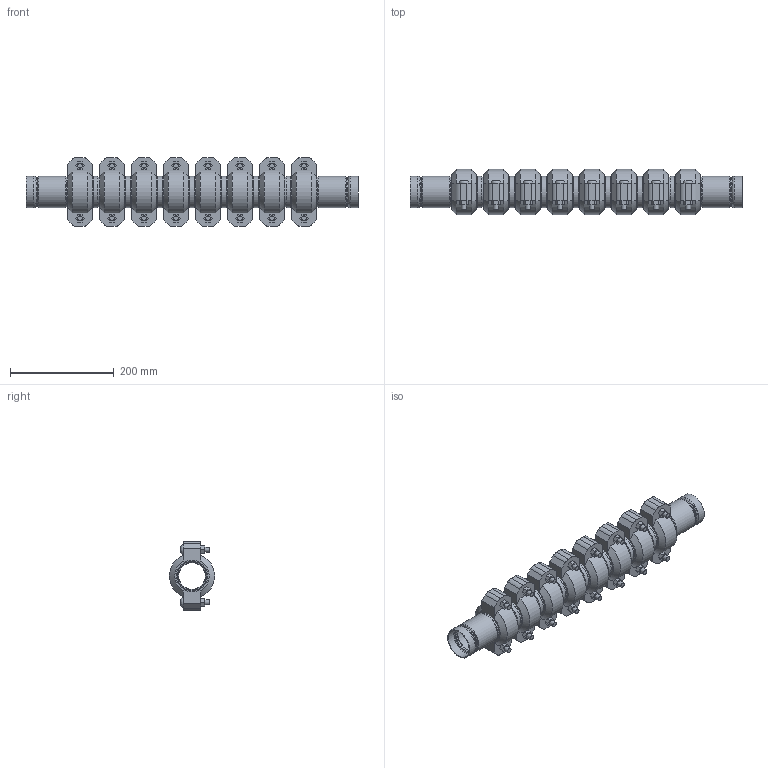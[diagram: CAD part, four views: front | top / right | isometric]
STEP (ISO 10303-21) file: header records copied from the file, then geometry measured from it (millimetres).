
FILE_DESCRIPTION(/* description */ ('VIC STRENGTHIN 100 EXPANSION JOINT 8 COUPLINGS EXPANDED STYLE E155 (ST1)','CAx-IF Rec.Pracs.---Representation and Presentation of Product Manufacturing Information (PMI)---4.0---2014-10-13'),/* implementation_level */ '2;1');
FILE_NAME(/* name */ 'C:\Users\Vjadhav\AppData\Roaming\Autodesk\ApplicationPlugins\Victaulic.Temp\A374\Victaulic_SS-StrengThin 100_Expansion Joint_Expanded_8 Couplings_Style E155 (ST1)_2 (50).stp',/* time_stamp */ '2021-07-23T19:34:19+05:00',/* author */ ('kkamble'),/* organization */ ('Victaulic'),/* preprocessor_version */ 'ST-DEVELOPER v17.2',/* originating_system */ 'Autodesk Inventor 2019',/* authorisation */ '');
FILE_SCHEMA (('AP242_MANAGED_MODEL_BASED_3D_ENGINEERING_MIM_LF { 1 0 10303 442 1 1 4 }'));
Length unit declared in the file: inch
Products named in the file (4): E155-02.0; E494G-02.0; Nipple-02.0; 075-02.0
Assembly tree (17 placements, depth 2):
  E155-02.0
    E494G-02.0  x2
    Nipple-02.0  x7
    075-02.0  x8
Bounding box: 639.83 x 87.12 x 132.59 mm (x, y, z)
Volume: 1907551.9 mm3; surface area: 555841 mm2
Topology: 17 solids, 33 shells, 608 faces, 1496 edges, 1054 vertices
Faces by surface type: plane 342, cylinder 182, cone 36, torus 32, bspline 16
Full cylindrical faces by diameter (mm): 9.525 x32, 11.43 x16, 51.13 x2, 52.502 x7, 53.95 x2, 53.975 x8, 54.331 x2, 57.125 x6, 57.15 x16, 60.325 x43
Entity records: 3798 total; most frequent: DIRECTION 677, CARTESIAN_POINT 663, ORIENTED_EDGE 548, AXIS2_PLACEMENT_3D 289, EDGE_CURVE 274, VERTEX_POINT 197, CIRCLE 167, EDGE_LOOP 129
